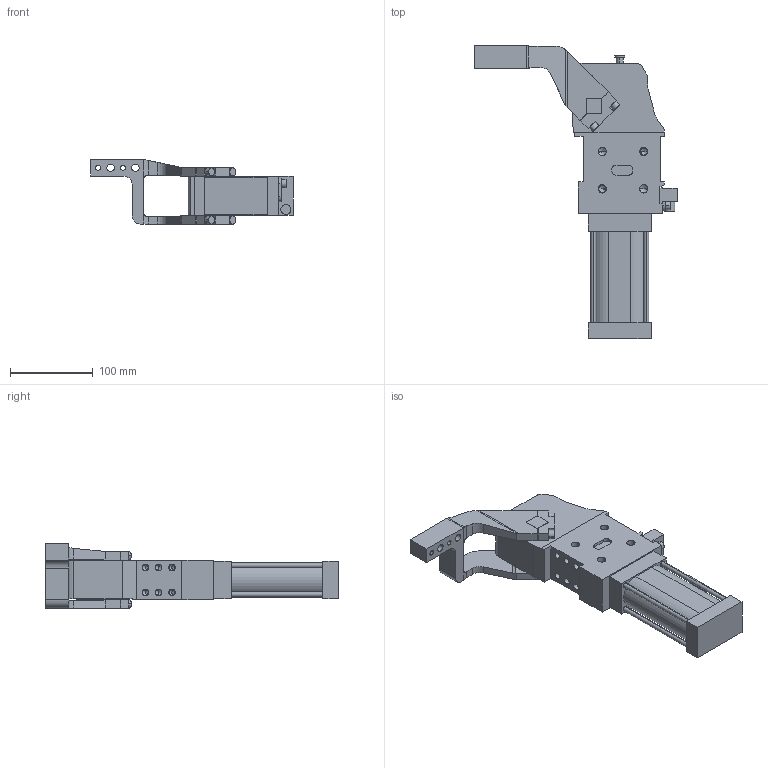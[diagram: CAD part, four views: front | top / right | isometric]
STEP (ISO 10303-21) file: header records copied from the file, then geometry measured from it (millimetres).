
FILE_DESCRIPTION (( 'STEP AP214' ), '1' );
FILE_NAME ('cpl50v3si1g_135.STEP', '2023-01-26T09:52:10', ( '' ), ( '' ), 'SwSTEP 2.0', 'SolidWorks 2022', '' );
FILE_SCHEMA (( 'AUTOMOTIVE_DESIGN' ));
Length unit declared in the file: millimetre
Products named in the file (4): leva_sx_offset_45_cpl50; blocchetto_VEP_0; meccanica_cpl_50; cpl50v3si1g_135
Assembly tree (3 placements, depth 2):
  cpl50v3si1g_135
    meccanica_cpl_50
    blocchetto_VEP_0
    leva_sx_offset_45_cpl50
Bounding box: 244.5 x 353.5 x 78.5 mm (x, y, z)
Volume: 1401486.7 mm3; surface area: 167143.1 mm2
Topology: 3 solids, 3 shells, 401 faces, 1035 edges, 643 vertices
Faces by surface type: plane 195, cylinder 156, cone 50
Entity records: 13476 total; most frequent: CARTESIAN_POINT 2142, DIRECTION 2110, ORIENTED_EDGE 1978, EDGE_CURVE 989, AXIS2_PLACEMENT_3D 729, VECTOR 652, LINE 652, VERTEX_POINT 643
